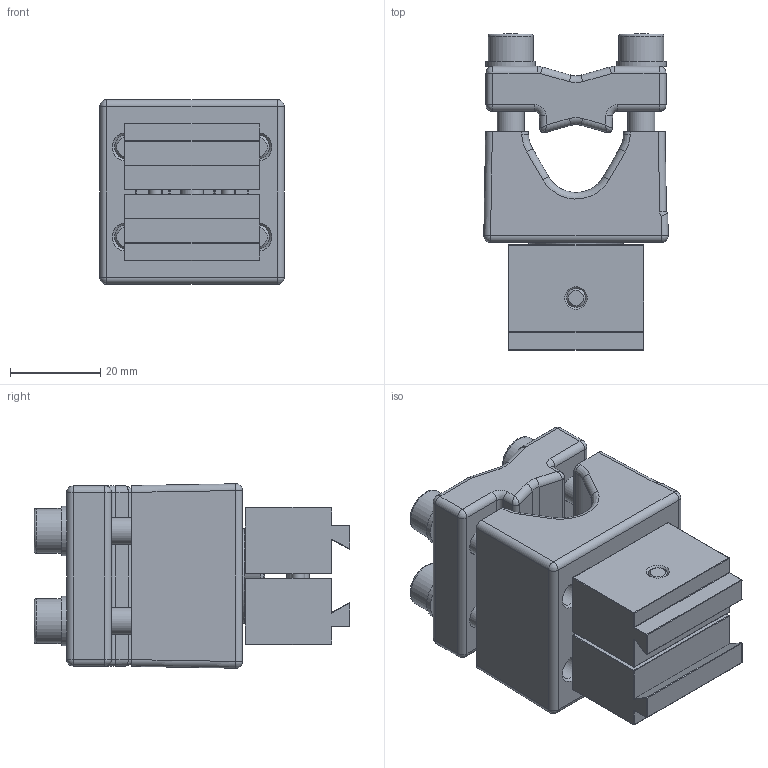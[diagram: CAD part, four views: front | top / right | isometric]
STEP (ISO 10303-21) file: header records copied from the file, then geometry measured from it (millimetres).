
FILE_DESCRIPTION(/* description */ (''),/* implementation_level */ '2;1');
FILE_NAME(/* name */ '3DCAD_BT56_V.stp',/* time_stamp */ '2020-09-18T08:32:21+02:00',/* author */ ('CC2'),/* organization */ ('Leuze electronic'),/* preprocessor_version */ 'ST-DEVELOPER v16',/* originating_system */ 'SIEMENS PLM Software NX 11.0',/* authorisation */ '');
FILE_SCHEMA (('AUTOMOTIVE_DESIGN { 1 0 10303 214 3 1 1 1 }'));
Length unit declared in the file: millimetre
Products named in the file (1): 17-110996_00_1-3DCAD_BT56_V
Bounding box: 40.96 x 70.15 x 40.96 mm (x, y, z)
Volume: 69025.8 mm3; surface area: 27488.5 mm2
Topology: 11 solids, 11 shells, 445 faces, 1024 edges, 576 vertices
Faces by surface type: cylinder 158, plane 121, torus 45, bspline 45, sphere 39, cone 36, extrusion 1
Full cylindrical faces by diameter (mm): 3 x2, 3.2 x2, 4.2 x1, 5 x1, 5.4 x6, 6 x4, 6.4 x4, 8.5 x1, 9 x1, 10 x5, 11 x4, 25.1 x1
Entity records: 12848 total; most frequent: CARTESIAN_POINT 3735, DIRECTION 1941, ORIENTED_EDGE 1710, EDGE_CURVE 855, AXIS2_PLACEMENT_3D 801, EDGE_LOOP 566, VERTEX_POINT 538, ADVANCED_FACE 445
